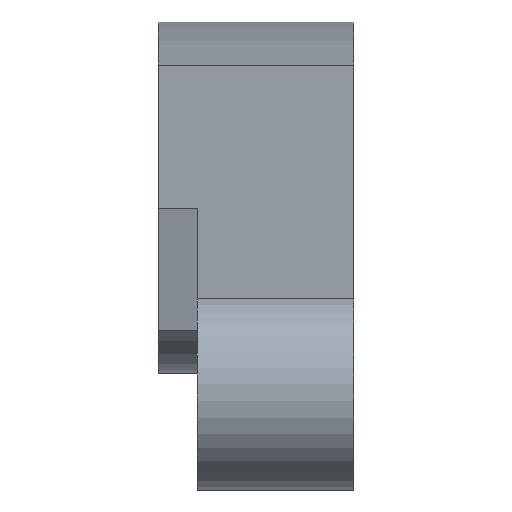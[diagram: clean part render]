
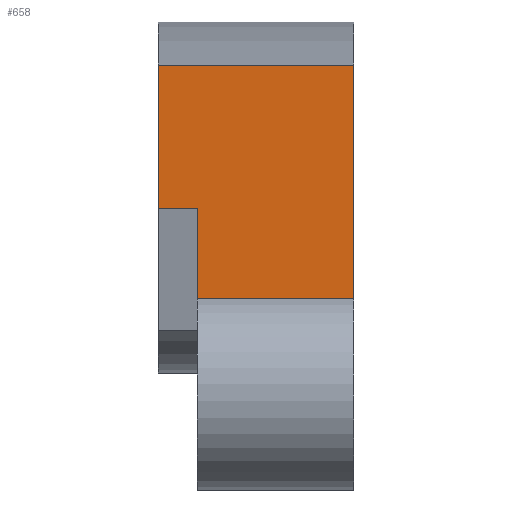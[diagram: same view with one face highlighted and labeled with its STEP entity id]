
A CAD part, front view. The second image highlights one B-rep face of the part: STEP entity #658.
In plain terms, the highlighted planar face has unit normal (0, -0.269, 0.963).
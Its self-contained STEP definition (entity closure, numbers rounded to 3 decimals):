
#287=CARTESIAN_POINT('Vertex',(0.,5.473,8.794)) ;
#290=CARTESIAN_POINT('Line Origine',(5.,5.473,8.794)) ;
#294=CARTESIAN_POINT('Vertex',(10.,5.473,8.794)) ;
#402=CARTESIAN_POINT('Line Origine',(10.,-15.998,2.805)) ;
#406=CARTESIAN_POINT('Vertex',(10.,-37.468,-3.184)) ;
#475=CARTESIAN_POINT('Vertex',(0.,-20.809,1.463)) ;
#480=CARTESIAN_POINT('Line Origine',(0.,-7.668,5.128)) ;
#614=CARTESIAN_POINT('Line Origine',(5.,-37.468,-3.184)) ;
#618=CARTESIAN_POINT('Vertex',(2.,-37.468,-3.184)) ;
#633=CARTESIAN_POINT('Axis2P3D Location',(0.,-37.468,-3.184)) ;
#638=CARTESIAN_POINT('Line Origine',(1.,-20.809,1.463)) ;
#642=CARTESIAN_POINT('Vertex',(2.,-20.809,1.463)) ;
#645=CARTESIAN_POINT('Line Origine',(2.,-29.138,-0.86)) ;
#291=DIRECTION('Vector Direction',(1.,0.,0.)) ;
#403=DIRECTION('Vector Direction',(0.,0.963,0.269)) ;
#481=DIRECTION('Vector Direction',(0.,0.963,0.269)) ;
#615=DIRECTION('Vector Direction',(1.,0.,0.)) ;
#634=DIRECTION('Axis2P3D Direction',(0.,0.269,-0.963)) ;
#635=DIRECTION('Axis2P3D XDirection',(0.,0.963,0.269)) ;
#639=DIRECTION('Vector Direction',(1.,0.,0.)) ;
#646=DIRECTION('Vector Direction',(0.,0.963,0.269)) ;
#636=AXIS2_PLACEMENT_3D('Plane Axis2P3D',#633,#634,#635) ;
#651=ORIENTED_EDGE('',*,*,#644,.T.) ;
#652=ORIENTED_EDGE('',*,*,#649,.F.) ;
#653=ORIENTED_EDGE('',*,*,#620,.T.) ;
#654=ORIENTED_EDGE('',*,*,#408,.F.) ;
#655=ORIENTED_EDGE('',*,*,#296,.F.) ;
#656=ORIENTED_EDGE('',*,*,#484,.T.) ;
#292=VECTOR('Line Direction',#291,1.) ;
#404=VECTOR('Line Direction',#403,1.) ;
#482=VECTOR('Line Direction',#481,1.) ;
#616=VECTOR('Line Direction',#615,1.) ;
#640=VECTOR('Line Direction',#639,1.) ;
#647=VECTOR('Line Direction',#646,1.) ;
#658=ADVANCED_FACE('Corps principal',(#657),#637,.F.) ;
#296=EDGE_CURVE('',#288,#295,#293,.T.) ;
#408=EDGE_CURVE('',#295,#407,#405,.F.) ;
#484=EDGE_CURVE('',#288,#476,#483,.F.) ;
#620=EDGE_CURVE('',#619,#407,#617,.T.) ;
#644=EDGE_CURVE('',#476,#643,#641,.T.) ;
#649=EDGE_CURVE('',#619,#643,#648,.T.) ;
#650=EDGE_LOOP('',(#651,#652,#653,#654,#655,#656)) ;
#657=FACE_OUTER_BOUND('',#650,.T.) ;
#293=LINE('Line',#290,#292) ;
#405=LINE('Line',#402,#404) ;
#483=LINE('Line',#480,#482) ;
#617=LINE('Line',#614,#616) ;
#641=LINE('Line',#638,#640) ;
#648=LINE('Line',#645,#647) ;
#637=PLANE('Plane',#636) ;
#288=VERTEX_POINT('',#287) ;
#295=VERTEX_POINT('',#294) ;
#407=VERTEX_POINT('',#406) ;
#476=VERTEX_POINT('',#475) ;
#619=VERTEX_POINT('',#618) ;
#643=VERTEX_POINT('',#642) ;
